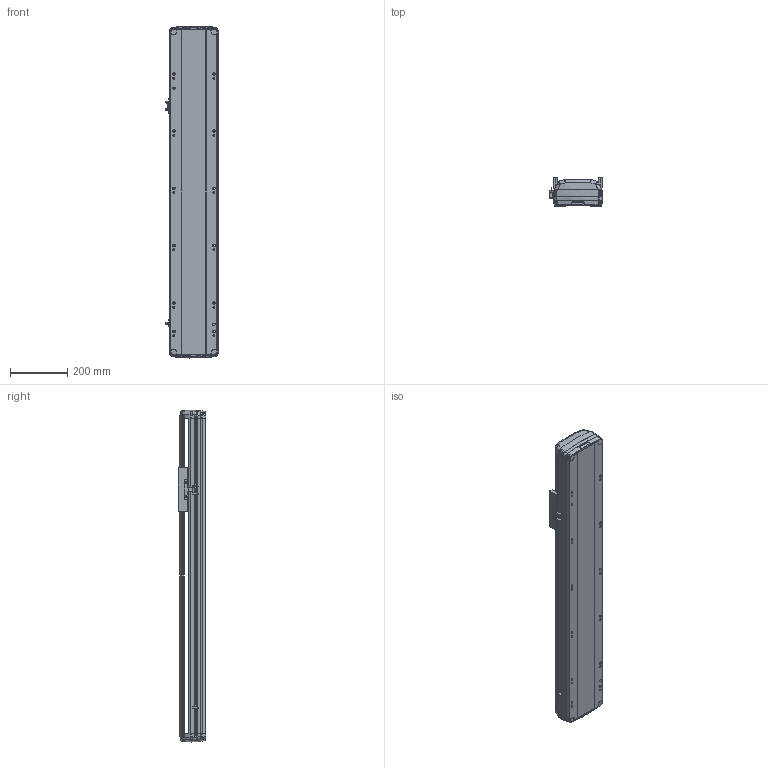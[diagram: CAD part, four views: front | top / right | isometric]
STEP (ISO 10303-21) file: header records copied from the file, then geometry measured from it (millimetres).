
FILE_DESCRIPTION (( 'STEP AP214' ), '1' );
FILE_NAME ('RTH17-XX-750-B-M40-C4.STEP', '2025-10-24T08:36:54', ( '' ), ( '' ), 'SwSTEP 2.0', 'SolidWorks 2018', '' );
FILE_SCHEMA (( 'AUTOMOTIVE_DESIGN' ));
Length unit declared in the file: millimetre
Products named in the file (7): N_RTH17-M-007上盖^RTH17-XX-XX-B-M40-C4（方程式）; N_RTH17-M-011底座^RTH17-XX-XX-B-M40-C4（方程式）; N_OMRON EE-SX672 換覜ん^RTH17-XX-XX-B-M40-C4ㄗ源最宒ㄘ; N_RTH17-E-004丝杆螺母连接座^RTH17-XX-XX-B-M40-C4（方程式）; N_RTH-L-012 感应片(外置)^RTH17-XX-XX-B-M40-C4（方程式）; RTH17-XX-750-B-M40-C4; N_RTH17-GY-001P^RTH17-XX-XX-B-M40-C4（方程式）
Assembly tree (9 placements, depth 2):
  RTH17-XX-750-B-M40-C4
    N_RTH17-M-011底座^RTH17-XX-XX-B-M40-C4（方程式）
    N_RTH17-M-007上盖^RTH17-XX-XX-B-M40-C4（方程式）
    N_OMRON EE-SX672 換覜ん^RTH17-XX-XX-B-M40-C4ㄗ源最宒ㄘ  x3
    N_RTH-L-012 感应片(外置)^RTH17-XX-XX-B-M40-C4（方程式）
    N_RTH17-E-004丝杆螺母连接座^RTH17-XX-XX-B-M40-C4（方程式）
    N_RTH17-GY-001P^RTH17-XX-XX-B-M40-C4（方程式）  x2
Bounding box: 183.5 x 97 x 1159.88 mm (x, y, z)
Volume: 8526373.4 mm3; surface area: 1188246.6 mm2
Topology: 7 solids, 11 shells, 1736 faces, 4880 edges, 3170 vertices
Faces by surface type: plane 811, cylinder 459, bspline 420, cone 28, torus 18
Entity records: 41046 total; most frequent: CARTESIAN_POINT 17043, ORIENTED_EDGE 5264, DIRECTION 4156, EDGE_CURVE 2636, VERTEX_POINT 1724, VECTOR 1436, LINE 1436, AXIS2_PLACEMENT_3D 1360
